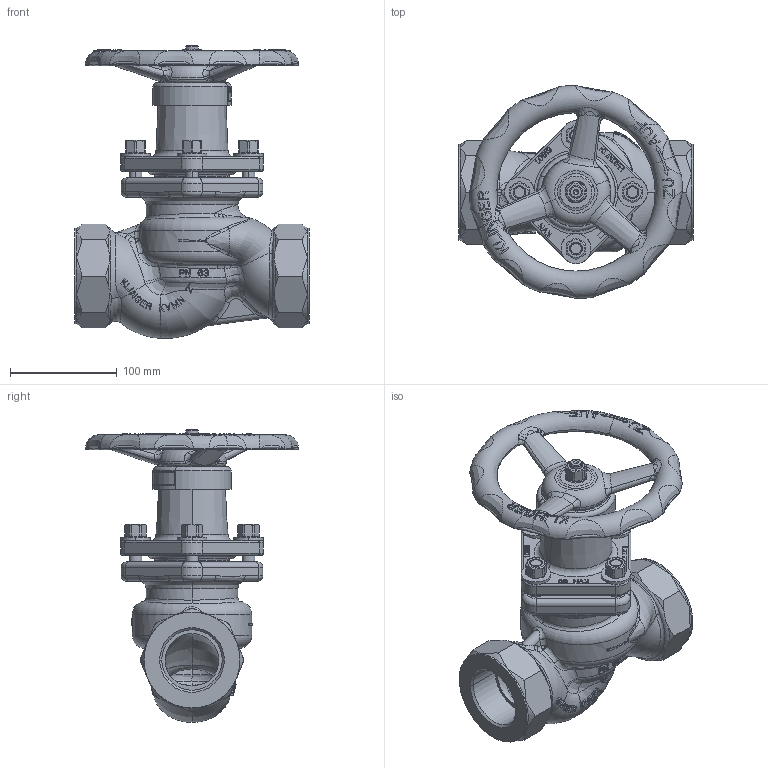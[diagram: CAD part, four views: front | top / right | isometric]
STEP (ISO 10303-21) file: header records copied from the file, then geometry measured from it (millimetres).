
FILE_DESCRIPTION((''),'2;1');
FILE_NAME('KVMN-G2-S-----P063PGG_SW0001','2015-07-09T',('jeitlers'),('RAND'),'PRO/ENGINEER BY PARAMETRIC TECHNOLOGY CORPORATION, 2013410','PRO/ENGINEER BY PARAMETRIC TECHNOLOGY CORPORATION, 2013410','');
FILE_SCHEMA(('CONFIG_CONTROL_DESIGN'));
Products named in the file (1): KVMN-G2-S-----P063PGG_SW0001
Bounding box: 220 x 199.99 x 274.6 mm (x, y, z)
Volume: 1623564.8 mm3; surface area: 348753.8 mm2
Topology: 3 solids, 3 shells, 2833 faces, 7602 edges, 4848 vertices
Faces by surface type: plane 1669, bspline 476, cylinder 336, torus 189, cone 140, extrusion 21, sphere 2
Entity records: 192134 total; most frequent: CARTESIAN_POINT 127710, ORIENTED_EDGE 15194, DIRECTION 10721, EDGE_CURVE 7597, VERTEX_POINT 4848, AXIS2_PLACEMENT_3D 3680, VECTOR 3361, LINE 3340
